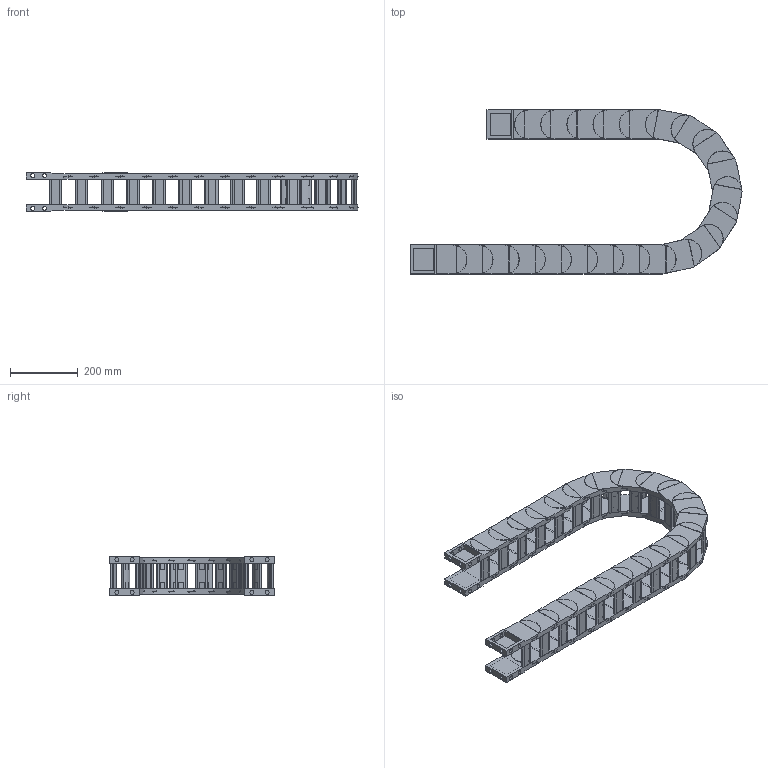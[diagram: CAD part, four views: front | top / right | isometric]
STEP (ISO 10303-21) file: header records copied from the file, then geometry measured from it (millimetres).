
FILE_DESCRIPTION((''),'2;1');
FILE_NAME('HD65-R200-ZPT_ASM','2022-06-18T10:50:27',('admin'),(''),'CREO PARAMETRIC BY PTC INC, 2021164','CREO PARAMETRIC BY PTC INC, 2021164','');
FILE_SCHEMA(('CONFIG_CONTROL_DESIGN','GEOMETRIC_VALIDATION_PROPERTIES_MIM'));
Length unit declared in the file: millimetre
Products named in the file (6): HD65; 65-50HDQSYP; HD65_ASM; H65-T1; H65-T2; HD65-R200-ZPT_ASM
Assembly tree (27 placements, depth 3):
  HD65-R200-ZPT_ASM
    HD65_ASM  x21
      HD65
      65-50HDQSYP
    H65-T1
    H65-T2
    65-50HDQSYP  x2
Bounding box: 983.61 x 485.95 x 115.1 mm (x, y, z)
Volume: 6163539 mm3; surface area: 1856333.4 mm2
Topology: 92 solids, 92 shells, 1700 faces, 4478 edges, 3058 vertices
Faces by surface type: plane 1304, cylinder 396
Entity records: 8908 total; most frequent: CARTESIAN_POINT 1330, DIRECTION 1298, ORIENTED_EDGE 1212, EDGE_CURVE 606, AXIS2_PLACEMENT_3D 437, VECTOR 424, LINE 424, VERTEX_POINT 410
